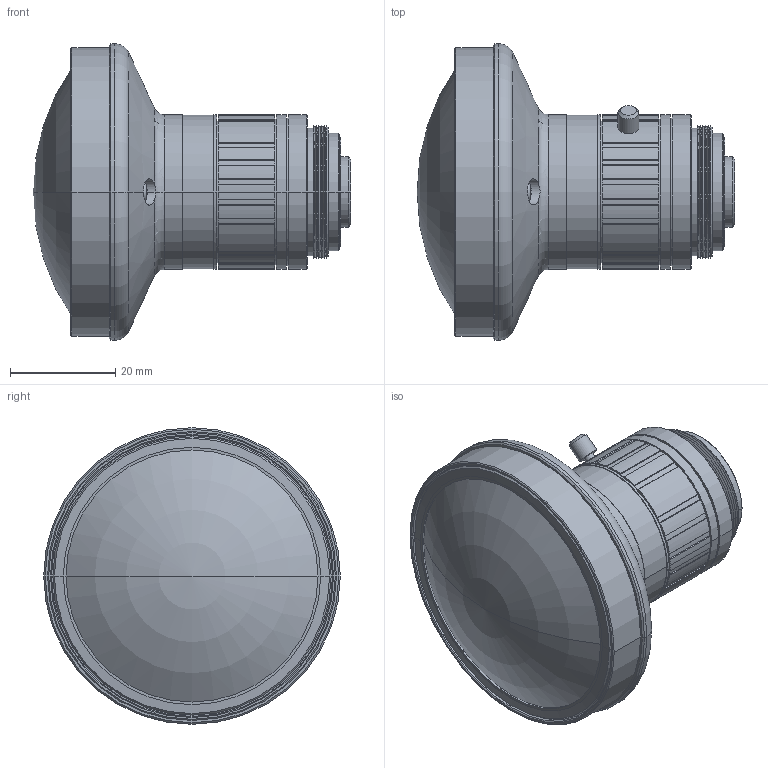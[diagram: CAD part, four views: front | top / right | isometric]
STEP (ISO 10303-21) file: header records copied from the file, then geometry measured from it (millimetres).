
FILE_DESCRIPTION(('CoCreate Modeling STEP Export'),'2;1');
FILE_NAME('FE185C086HA-1_3D_Modeling.stp','2016-05-11T18:31:34',(''),(''),'CoCreate Modeling STEP processor for AP214 (Solid Model)','CoCreate Modeling 17.0 01-Apr-2010 (C) Parametric Technology GmbH','');
FILE_SCHEMA(('AUTOMOTIVE_DESIGN { 1 0 10303 214 1 1 1 1 }'));
Length unit declared in the file: millimetre
Products named in the file (1): FE185C086HA-1
Bounding box: 60.5 x 56.5 x 56.5 mm (x, y, z)
Volume: 62462.6 mm3; surface area: 12262.8 mm2
Topology: 1 solids, 1 shells, 337 faces, 858 edges, 549 vertices
Faces by surface type: plane 137, cylinder 126, cone 52, torus 14, sphere 8
Entity records: 10829 total; most frequent: CARTESIAN_POINT 3204, ORIENTED_EDGE 1712, DIRECTION 1336, EDGE_CURVE 856, VERTEX_POINT 549, AXIS2_PLACEMENT_3D 455, VECTOR 426, LINE 426
